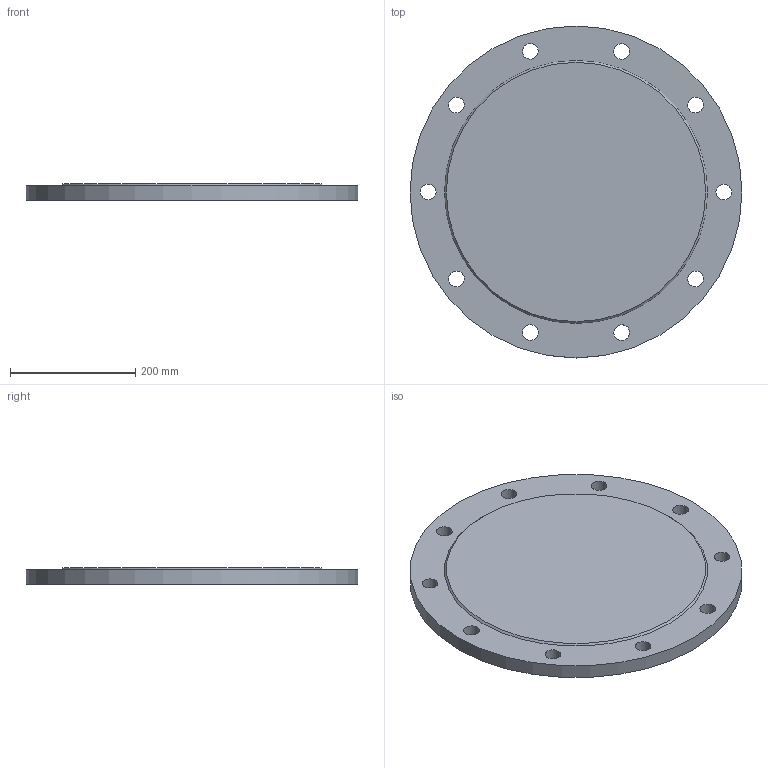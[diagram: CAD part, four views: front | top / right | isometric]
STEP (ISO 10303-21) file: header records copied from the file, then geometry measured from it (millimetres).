
FILE_DESCRIPTION(/* description */ (''),/* implementation_level */ '2;1');
FILE_NAME(/* name */ 'C:\Users\D\Documents\Inventor\HP\JIS\フランジ\水道用フランジF12\BL\ffws_bl_350.stp',/* time_stamp */ '2024-08-28T10:09:22+09:00',/* author */ ('D'),/* organization */ (''),/* preprocessor_version */ 'ST-DEVELOPER v18',/* originating_system */ 'Autodesk Inventor 2020',/* authorisation */ '');
FILE_SCHEMA (('AUTOMOTIVE_DESIGN { 1 0 10303 214 3 1 1 }'));
Length unit declared in the file: millimetre
Products named in the file (1): ffws_pl_80
Bounding box: 530 x 530 x 26 mm (x, y, z)
Volume: 5371044.3 mm3; surface area: 489407.3 mm2
Topology: 1 solids, 1 shells, 15 faces, 50 edges, 38 vertices
Faces by surface type: cylinder 11, plane 3, cone 1
Full cylindrical faces by diameter (mm): 25 x10, 530 x1
Entity records: 675 total; most frequent: DIRECTION 120, CARTESIAN_POINT 104, ORIENTED_EDGE 100, AXIS2_PLACEMENT_3D 54, EDGE_CURVE 50, CIRCLE 38, VERTEX_POINT 38, EDGE_LOOP 36
